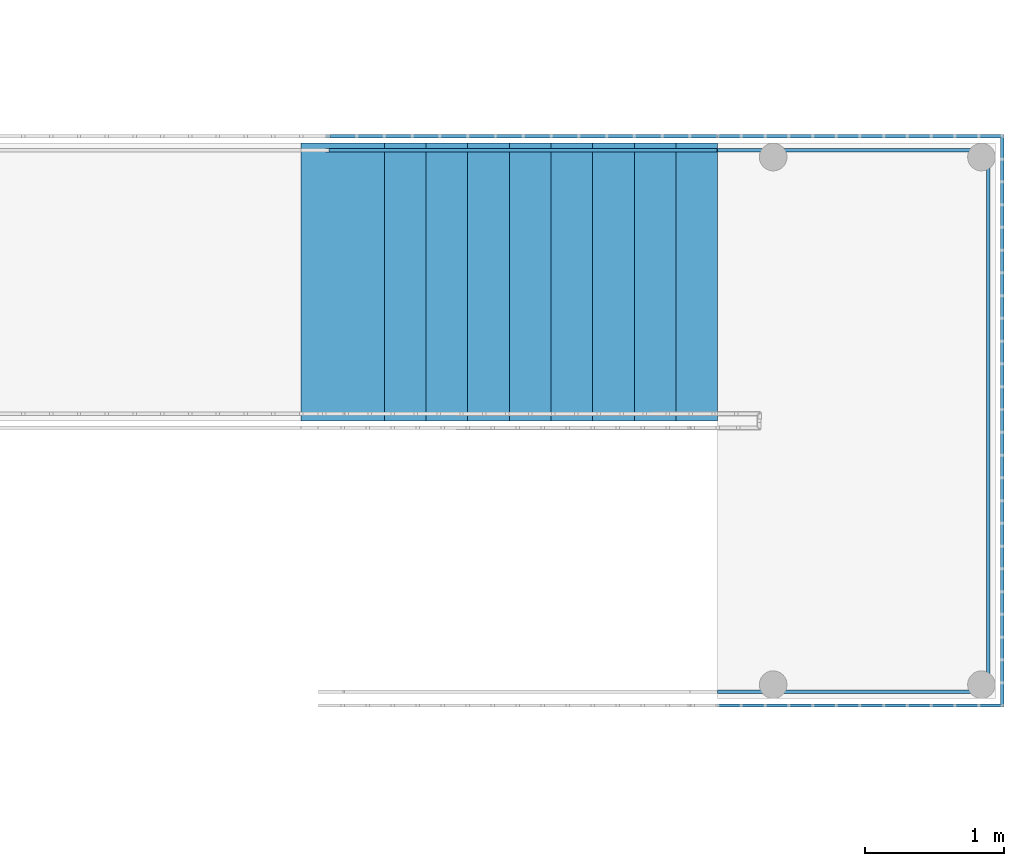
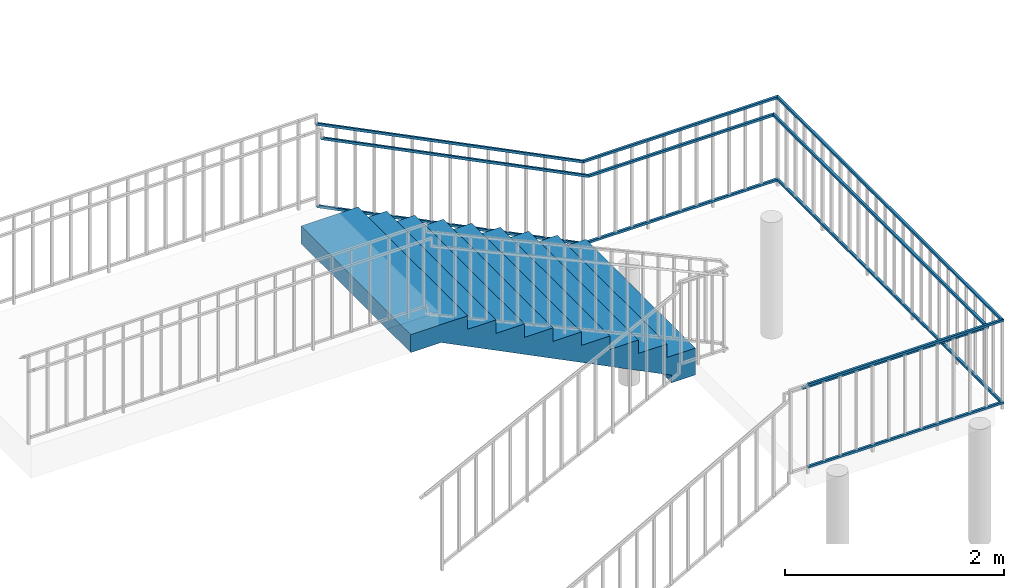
# One storey, part 11 of 19: 13 building element parts, 2 elements without a shape of their own.
"""IFC4 building model written with IfcOpenShell, lengths in millimetres."""

from ifc_helpers import new_model, entity, si_unit, converted_unit, derived_unit, direction, frame, origin_with_axes, place, context, subcontext, project, spatial, triangles, material, element, aggregate, save


model = new_model("IFC4")

# Units and contexts
model_context = context("Model", 3, precision=1e-05, world=origin_with_axes(), true_north=direction((0.0, 1.0)))
body_context = subcontext(model_context, "Body", "Model", "MODEL_VIEW")
ifc_project = project(units=[si_unit("LENGTHUNIT", "METRE", prefix="MILLI"), si_unit("AREAUNIT", "SQUARE_METRE"), si_unit("VOLUMEUNIT", "CUBIC_METRE"), converted_unit("PLANEANGLEUNIT", "DEGREE", entity("IfcLengthMeasure", 0.017453), si_unit("PLANEANGLEUNIT", "RADIAN"), dimensions=[0, 0, 0, 0, 0, 0, 0]), si_unit("SOLIDANGLEUNIT", "STERADIAN"), si_unit("MASSUNIT", "GRAM"), si_unit("TIMEUNIT", "SECOND"), si_unit("THERMODYNAMICTEMPERATUREUNIT", "DEGREE_CELSIUS"), si_unit("LUMINOUSINTENSITYUNIT", "LUMEN"), si_unit("POWERUNIT", "WATT"), derived_unit("THERMALTRANSMITTANCEUNIT", [(si_unit("POWERUNIT", "WATT"), 1), (si_unit("THERMODYNAMICTEMPERATUREUNIT", "KELVIN"), -1), (si_unit("AREAUNIT", "SQUARE_METRE"), -1)])], contexts=[model_context])

# Site, building, storey
site_placement = place(None, origin_with_axes())
site = spatial("IfcSite", under=ifc_project, at=site_placement, Name="Default Site", CompositionType="ELEMENT")
building_placement = place(site_placement, origin_with_axes())
building = spatial("IfcBuilding", under=site, at=building_placement, Name="Default Building", CompositionType="ELEMENT")
storey_placement = place(building_placement, frame((0.0, 0.0, 3000.0), z_axis=(0.0, 0.0, 1.0), x_axis=(1.0, 0.0, 0.0)))
storey = spatial("IfcBuildingStorey", under=building, at=storey_placement, Name="EG - Story", CompositionType="ELEMENT", Elevation=3000.0)

# Railing, building element parts
railing_placement = place(storey_placement, origin_with_axes())
railing = element("IfcRailing", 1, at=railing_placement, inside=storey, Name="Geländer - 001", PredefinedType="NOTDEFINED")
ifc_material_1 = material(Name="Bekleidung")
building_element_part_1_placement = place(railing_placement, frame((84051.391327, -31589.262838, -3000.0), z_axis=(0.0, 0.0, 1.0), x_axis=(1.0, 0.0, 0.0)))
building_element_part_1 = element("IfcBuildingElementPart", 2, at=building_element_part_1_placement, material=ifc_material_1, Name="Bekleidung", PredefinedType="NOTDEFINED", context=body_context, shape_type="Tessellation", body=[
    triangles([(2700.0, 37.5, 2400.0), (2700.0, 37.5, 2375.0), (4662.5, 37.5, 2375.0), (4662.5, 37.5, 2400.0), (2700.0, 62.5, 2400.0), (2700.0, 62.5, 2375.0), (4637.5, 62.5, 2375.0), (4637.5, 62.5, 2400.0)], [[1, 2, 3], [1, 3, 4], [1, 5, 6], [1, 6, 2], [2, 6, 7], [2, 7, 3], [4, 3, 7], [4, 7, 8], [5, 1, 4], [5, 4, 8], [6, 5, 8], [6, 8, 7]], closed=False),
])
building_element_part_2_placement = place(railing_placement, frame((84051.391327, -31589.262838, -3000.0), z_axis=(0.0, 0.0, 1.0), x_axis=(1.0, 0.0, 0.0)))
building_element_part_2 = element("IfcBuildingElementPart", 3, at=building_element_part_2_placement, material=ifc_material_1, Name="Bekleidung", PredefinedType="NOTDEFINED", context=body_context, shape_type="Tessellation", body=[
    triangles([(2700.0, -62.499, 2500.0), (2700.0, -62.499, 2475.0), (4762.5, -62.499, 2475.0), (4762.5, -62.499, 2500.0), (2700.0, -37.499, 2500.0), (2700.0, -37.499, 2475.0), (4737.5, -37.499, 2475.0), (4737.5, -37.499, 2500.0)], [[1, 2, 3], [1, 3, 4], [1, 5, 6], [1, 6, 2], [2, 6, 7], [2, 7, 3], [4, 3, 7], [4, 7, 8], [5, 1, 4], [5, 4, 8], [6, 5, 8], [6, 8, 7]], closed=False),
])
building_element_part_3_placement = place(railing_placement, frame((84051.391327, -31589.262838, -3000.0), z_axis=(0.0, 0.0, 1.0), x_axis=(1.0, 0.0, 0.0)))
building_element_part_3 = element("IfcBuildingElementPart", 4, at=building_element_part_3_placement, material=ifc_material_1, Name="Bekleidung", PredefinedType="NOTDEFINED", context=body_context, shape_type="Tessellation", body=[
    triangles([(2700.0, -62.499, 1582.5), (2700.0, -62.499, 1557.5), (4762.5, -62.499, 1557.5), (4762.5, -62.499, 1582.5), (2700.0, -37.499, 1582.5), (2700.0, -37.499, 1557.5), (4737.5, -37.499, 1557.5), (4737.5, -37.499, 1582.5)], [[1, 2, 3], [1, 3, 4], [1, 5, 6], [1, 6, 2], [2, 6, 7], [2, 7, 3], [4, 3, 7], [4, 7, 8], [5, 1, 4], [5, 4, 8], [6, 5, 8], [6, 8, 7]], closed=False),
])
building_element_part_4_placement = place(railing_placement, frame((84051.391327, -31589.262838, -3000.0), z_axis=(0.0, 0.0, 1.0), x_axis=(1.0, 0.0, 0.0)))
building_element_part_4 = element("IfcBuildingElementPart", 5, at=building_element_part_4_placement, material=ifc_material_1, Name="Bekleidung", PredefinedType="NOTDEFINED", context=body_context, shape_type="Tessellation", body=[
    triangles([(4662.5, 37.5, 2400.0), (4662.5, 37.5, 2375.0), (4662.5, 3962.5, 2375.0), (4662.5, 3962.5, 2400.0), (4637.5, 62.5, 2400.0), (4637.5, 62.5, 2375.0), (4637.5, 3937.5, 2375.0), (4637.5, 3937.5, 2400.0)], [[1, 2, 3], [1, 3, 4], [1, 5, 6], [1, 6, 2], [2, 6, 7], [2, 7, 3], [4, 3, 7], [4, 7, 8], [5, 1, 4], [5, 4, 8], [6, 5, 8], [6, 8, 7]], closed=False),
])
building_element_part_5_placement = place(railing_placement, frame((84051.391327, -31589.262838, -3000.0), z_axis=(0.0, 0.0, 1.0), x_axis=(1.0, 0.0, 0.0)))
building_element_part_5 = element("IfcBuildingElementPart", 6, at=building_element_part_5_placement, material=ifc_material_1, Name="Bekleidung", PredefinedType="NOTDEFINED", context=body_context, shape_type="Tessellation", body=[
    triangles([(4762.5, -62.499, 2500.0), (4762.5, -62.499, 2475.0), (4762.5, 4062.5, 2475.0), (4762.5, 4062.5, 2500.0), (4737.5, -37.499, 2500.0), (4737.5, -37.499, 2475.0), (4737.5, 4037.5, 2475.0), (4737.5, 4037.5, 2500.0)], [[1, 2, 3], [1, 3, 4], [1, 5, 6], [1, 6, 2], [2, 6, 7], [2, 7, 3], [4, 3, 7], [4, 7, 8], [5, 1, 4], [5, 4, 8], [6, 5, 8], [6, 8, 7]], closed=False),
])
building_element_part_6_placement = place(railing_placement, frame((84051.391327, -31589.262838, -3000.0), z_axis=(0.0, 0.0, 1.0), x_axis=(1.0, 0.0, 0.0)))
building_element_part_6 = element("IfcBuildingElementPart", 7, at=building_element_part_6_placement, material=ifc_material_1, Name="Bekleidung", PredefinedType="NOTDEFINED", context=body_context, shape_type="Tessellation", body=[
    triangles([(4762.5, -62.499, 1582.5), (4762.5, -62.499, 1557.5), (4762.5, 4062.5, 1557.5), (4762.5, 4062.5, 1582.5), (4737.5, -37.499, 1582.5), (4737.5, -37.499, 1557.5), (4737.5, 4037.5, 1557.5), (4737.5, 4037.5, 1582.5)], [[1, 2, 3], [1, 3, 4], [1, 5, 6], [1, 6, 2], [2, 6, 7], [2, 7, 3], [4, 3, 7], [4, 7, 8], [5, 1, 4], [5, 4, 8], [6, 5, 8], [6, 8, 7]], closed=False),
])
building_element_part_7_placement = place(railing_placement, frame((84051.391327, -31589.262838, -3000.0), z_axis=(0.0, 0.0, 1.0), x_axis=(1.0, 0.0, 0.0)))
building_element_part_7 = element("IfcBuildingElementPart", 8, at=building_element_part_7_placement, material=ifc_material_1, Name="Bekleidung", PredefinedType="NOTDEFINED", context=body_context, shape_type="Tessellation", body=[
    triangles([(4662.5, 3962.5, 2400.0), (4662.5, 3962.5, 2375.0), (2694.098, 3962.5, 2375.0), (2700.0, 3962.5, 2400.0), (4637.5, 3937.5, 2400.0), (4637.5, 3937.5, 2375.0), (2694.098, 3937.5, 2375.0), (2700.0, 3937.5, 2400.0)], [[1, 2, 3], [1, 3, 4], [1, 5, 6], [1, 6, 2], [2, 6, 7], [2, 7, 3], [4, 3, 7], [4, 7, 8], [5, 1, 4], [5, 4, 8], [6, 5, 8], [6, 8, 7]], closed=False),
])
building_element_part_8_placement = place(railing_placement, frame((84051.391327, -31589.262838, -3000.0), z_axis=(0.0, 0.0, 1.0), x_axis=(1.0, 0.0, 0.0)))
building_element_part_8 = element("IfcBuildingElementPart", 9, at=building_element_part_8_placement, material=ifc_material_1, Name="Bekleidung", PredefinedType="NOTDEFINED", context=body_context, shape_type="Tessellation", body=[
    triangles([(4762.5, 4062.5, 2500.0), (4762.5, 4062.5, 2475.0), (2694.098, 4062.5, 2475.0), (2700.0, 4062.5, 2500.0), (4737.5, 4037.5, 2500.0), (4737.5, 4037.5, 2475.0), (2694.098, 4037.5, 2475.0), (2700.0, 4037.5, 2500.0)], [[1, 2, 3], [1, 3, 4], [1, 5, 6], [1, 6, 2], [2, 6, 7], [2, 7, 3], [4, 3, 7], [4, 7, 8], [5, 1, 4], [5, 4, 8], [6, 5, 8], [6, 8, 7]], closed=False),
])
building_element_part_9_placement = place(railing_placement, frame((84051.391327, -31589.262838, -3000.0), z_axis=(0.0, 0.0, 1.0), x_axis=(1.0, 0.0, 0.0)))
building_element_part_9 = element("IfcBuildingElementPart", 10, at=building_element_part_9_placement, material=ifc_material_1, Name="Bekleidung", PredefinedType="NOTDEFINED", context=body_context, shape_type="Tessellation", body=[
    triangles([(4762.5, 4062.5, 1582.5), (4762.5, 4062.5, 1557.5), (2697.049, 4062.5, 1557.5), (2702.951, 4062.5, 1582.5), (4737.5, 4037.5, 1582.5), (4737.5, 4037.5, 1557.5), (2697.049, 4037.5, 1557.5), (2702.951, 4037.5, 1582.5)], [[1, 2, 3], [1, 3, 4], [1, 5, 6], [1, 6, 2], [2, 6, 7], [2, 7, 3], [4, 3, 7], [4, 7, 8], [5, 1, 4], [5, 4, 8], [6, 5, 8], [6, 8, 7]], closed=False),
])
building_element_part_10_placement = place(railing_placement, frame((84051.391327, -31589.262838, -3000.0), z_axis=(0.0, 0.0, 1.0), x_axis=(1.0, 0.0, 0.0)))
building_element_part_10 = element("IfcBuildingElementPart", 11, at=building_element_part_10_placement, material=ifc_material_1, Name="Bekleidung", PredefinedType="NOTDEFINED", context=body_context, shape_type="Tessellation", body=[
    triangles([(2700.0, 3962.5, 2400.0), (2694.098, 3962.5, 2375.0), (-124.999, 3962.5, 3784.549), (-99.999, 3962.5, 3800.0), (2700.0, 3937.5, 2400.0), (2694.098, 3937.5, 2375.0), (-124.999, 3937.5, 3784.549), (-99.999, 3937.5, 3800.0)], [[1, 2, 3], [1, 3, 4], [1, 5, 6], [1, 6, 2], [2, 6, 7], [2, 7, 3], [4, 3, 7], [4, 7, 8], [5, 1, 4], [5, 4, 8], [6, 5, 8], [6, 8, 7]], closed=False),
])
building_element_part_11_placement = place(railing_placement, frame((84051.391327, -31589.262838, -3000.0), z_axis=(0.0, 0.0, 1.0), x_axis=(1.0, 0.0, 0.0)))
building_element_part_11 = element("IfcBuildingElementPart", 12, at=building_element_part_11_placement, material=ifc_material_1, Name="Bekleidung", PredefinedType="NOTDEFINED", context=body_context, shape_type="Tessellation", body=[
    triangles([(2700.0, 4062.5, 2500.0), (2694.098, 4062.5, 2475.0), (-124.999, 4062.5, 3884.549), (-99.999, 4062.5, 3900.0), (2700.0, 4037.5, 2500.0), (2694.098, 4037.5, 2475.0), (-124.999, 4037.5, 3884.549), (-99.999, 4037.5, 3900.0)], [[1, 2, 3], [1, 3, 4], [1, 5, 6], [1, 6, 2], [2, 6, 7], [2, 7, 3], [4, 3, 7], [4, 7, 8], [5, 1, 4], [5, 4, 8], [6, 5, 8], [6, 8, 7]], closed=False),
])
building_element_part_12_placement = place(railing_placement, frame((84051.391327, -31589.262838, -3000.0), z_axis=(0.0, 0.0, 1.0), x_axis=(1.0, 0.0, 0.0)))
building_element_part_12 = element("IfcBuildingElementPart", 13, at=building_element_part_12_placement, material=ifc_material_1, Name="Bekleidung", PredefinedType="NOTDEFINED", context=body_context, shape_type="Tessellation", body=[
    triangles([(2702.951, 4062.5, 1582.5), (2697.049, 4062.5, 1557.5), (-112.499, 4062.5, 2962.275), (-87.499, 4062.5, 2977.725), (2702.951, 4037.5, 1582.5), (2697.049, 4037.5, 1557.5), (-112.499, 4037.5, 2962.275), (-87.499, 4037.5, 2977.725)], [[1, 2, 3], [1, 3, 4], [1, 5, 6], [1, 6, 2], [2, 6, 7], [2, 7, 3], [4, 3, 7], [4, 7, 8], [5, 1, 4], [5, 4, 8], [6, 5, 8], [6, 8, 7]], closed=False),
])
aggregate(railing, [building_element_part_1, building_element_part_2, building_element_part_3, building_element_part_4, building_element_part_5, building_element_part_6, building_element_part_7, building_element_part_8, building_element_part_9, building_element_part_10, building_element_part_11, building_element_part_12])

# Stair, building element part
stair_placement = place(storey_placement, origin_with_axes())
stair = element("IfcStair", 14, at=stair_placement, inside=storey, Name="Treppe - 003", PredefinedType="NOTDEFINED")
ifc_material_2 = material(Name="Bauteil")
building_element_part_13_placement = place(stair_placement, frame((86751.391327, -29589.262838, -1500.0), z_axis=(0.0, 0.0, 1.0), x_axis=(-1.0, 0.0, 0.0)))
building_element_part_13 = element("IfcBuildingElementPart", 15, at=building_element_part_13_placement, material=ifc_material_2, Name="Bauteil", PredefinedType="NOTDEFINED", context=body_context, shape_type="Tessellation", body=[
    triangles([(2625.0, 0.0, 1122.434), (2680.132, 0.0, 1150.0), (2680.132, -1999.999, 1150.0), (2625.0, -1999.999, 1122.434), (0.0, 0.0, 150.0), (0.0, 0.0, -149.999), (250.0, 0.0, -65.065), (300.0, 0.0, -40.065), (375.0, 0.0, -2.565), (400.0, 0.0, 9.934), (450.0, 0.0, 34.934), (500.0, 0.0, 59.934), (525.0, 0.0, 72.434), (600.0, 0.0, 109.934), (675.0, 0.0, 147.434), (300.0, 0.0, 150.0), (750.0, 0.0, 184.934), (825.0, 0.0, 222.434), (300.0, 0.0, 300.0), (900.0, 0.0, 259.934), (600.0, 0.0, 300.0), (1000.0, 0.0, 309.934), (600.0, 0.0, 450.0), (1100.0, 0.0, 359.934), (1200.0, 0.0, 409.934), (900.0, 0.0, 450.0), (1300.0, 0.0, 459.934), (900.0, 0.0, 600.0), (1400.0, 0.0, 509.934), (1500.0, 0.0, 559.934), (1200.0, 0.0, 600.0), (1600.0, 0.0, 609.934), (1200.0, 0.0, 750.0), (1700.0, 0.0, 659.934), (1800.0, 0.0, 709.934), (1875.0, 0.0, 747.434), (1500.0, 0.0, 750.0), (1900.0, 0.0, 759.934), (1500.0, 0.0, 900.0), (1950.0, 0.0, 784.934), (2000.0, 0.0, 809.934), (2025.0, 0.0, 822.434), (2100.0, 0.0, 859.934), (1800.0, 0.0, 900.0), (2200.0, 0.0, 909.934), (1800.0, 0.0, 1050.0), (2300.0, 0.0, 959.934), (2400.0, 0.0, 1009.934), (2475.0, 0.0, 1047.434), (2100.0, 0.0, 1050.0), (2500.0, 0.0, 1059.934), (2100.0, 0.0, 1200.0), (2550.0, 0.0, 1084.934), (2600.0, 0.0, 1109.934), (3000.0, 0.0, 1350.0), (2400.0, 0.0, 1350.0), (3000.0, 0.0, 1309.934), (2400.0, 0.0, 1200.0), (3000.0, 0.0, 1150.0), (250.0, 0.0, -149.999), (3000.0, -1999.999, 1150.0), (0.0, -1999.999, 150.0), (0.0, -1999.999, -149.999), (250.0, -1999.999, -65.065), (300.0, -1999.999, -40.065), (375.0, -1999.999, -2.565), (400.0, -1999.999, 9.934), (450.0, -1999.999, 34.934), (500.0, -1999.999, 59.934), (525.0, -1999.999, 72.434), (600.0, -1999.999, 109.934), (675.0, -1999.999, 147.434), (300.0, -1999.999, 150.0), (750.0, -1999.999, 184.934), (825.0, -1999.999, 222.434), (300.0, -1999.999, 300.0), (900.0, -1999.999, 259.934), (600.0, -1999.999, 300.0), (1000.0, -1999.999, 309.934), (600.0, -1999.999, 450.0), (1100.0, -1999.999, 359.934), (1200.0, -1999.999, 409.934), (900.0, -1999.999, 450.0), (1300.0, -1999.999, 459.934), (900.0, -1999.999, 600.0), (1400.0, -1999.999, 509.934), (1500.0, -1999.999, 559.934), (1200.0, -1999.999, 600.0), (1600.0, -1999.999, 609.934), (1200.0, -1999.999, 750.0), (1700.0, -1999.999, 659.934), (1800.0, -1999.999, 709.934), (1875.0, -1999.999, 747.434), (1500.0, -1999.999, 750.0), (1900.0, -1999.999, 759.934), (1500.0, -1999.999, 900.0), (1950.0, -1999.999, 784.934), (2000.0, -1999.999, 809.934), (2025.0, -1999.999, 822.434), (2100.0, -1999.999, 859.934), (1800.0, -1999.999, 900.0), (2200.0, -1999.999, 909.934), (1800.0, -1999.999, 1050.0), (2300.0, -1999.999, 959.934), (2400.0, -1999.999, 1009.934), (2475.0, -1999.999, 1047.434), (2100.0, -1999.999, 1050.0), (2500.0, -1999.999, 1059.934), (2100.0, -1999.999, 1200.0), (2550.0, -1999.999, 1084.934), (2600.0, -1999.999, 1109.934), (3000.0, -1999.999, 1350.0), (2400.0, -1999.999, 1350.0), (3000.0, -1999.999, 1309.934), (2400.0, -1999.999, 1200.0), (250.0, -1999.999, -149.999)], [[1, 2, 3], [1, 3, 4], [5, 6, 7], [5, 7, 8], [5, 8, 9], [5, 9, 10], [5, 10, 11], [5, 11, 12], [5, 12, 13], [5, 13, 14], [5, 14, 15], [5, 15, 16], [17, 18, 19], [19, 18, 20], [19, 20, 21], [21, 20, 22], [21, 22, 23], [23, 22, 24], [23, 24, 25], [16, 15, 17], [16, 17, 19], [23, 25, 26], [26, 25, 27], [26, 27, 28], [28, 27, 29], [28, 29, 30], [28, 30, 31], [31, 30, 32], [31, 32, 33], [33, 32, 34], [33, 34, 35], [33, 36, 37], [37, 36, 38], [37, 38, 39], [39, 38, 40], [39, 40, 41], [41, 42, 39], [39, 42, 43], [39, 43, 44], [44, 43, 45], [44, 45, 46], [46, 45, 47], [46, 47, 48], [46, 49, 50], [50, 49, 51], [50, 51, 52], [52, 51, 53], [52, 53, 54], [55, 56, 57], [57, 56, 58], [57, 58, 2], [2, 58, 52], [2, 52, 1], [1, 52, 54], [57, 2, 59], [46, 48, 49], [33, 35, 36], [7, 6, 60], [3, 2, 59], [3, 59, 61], [62, 63, 64], [62, 64, 65], [62, 65, 66], [62, 66, 67], [62, 67, 68], [62, 68, 69], [62, 69, 70], [62, 70, 71], [62, 71, 72], [62, 72, 73], [74, 75, 76], [76, 75, 77], [76, 77, 78], [78, 77, 79], [78, 79, 80], [80, 79, 81], [80, 81, 82], [73, 72, 74], [73, 74, 76], [80, 82, 83], [83, 82, 84], [83, 84, 85], [85, 84, 86], [85, 86, 87], [85, 87, 88], [88, 87, 89], [88, 89, 90], [90, 89, 91], [90, 91, 92], [90, 93, 94], [94, 93, 95], [94, 95, 96], [96, 95, 97], [96, 97, 98], [98, 99, 96], [96, 99, 100], [96, 100, 101], [101, 100, 102], [101, 102, 103], [103, 102, 104], [103, 104, 105], [103, 106, 107], [107, 106, 108], [107, 108, 109], [109, 108, 110], [109, 110, 111], [112, 113, 114], [114, 113, 115], [114, 115, 3], [3, 115, 109], [3, 109, 4], [4, 109, 111], [114, 3, 61], [103, 105, 106], [90, 92, 93], [64, 63, 116], [54, 1, 4], [54, 4, 111], [53, 54, 111], [53, 111, 110], [51, 53, 110], [51, 110, 108], [49, 51, 108], [49, 108, 106], [48, 49, 106], [48, 106, 105], [47, 48, 105], [47, 105, 104], [45, 47, 104], [45, 104, 102], [43, 45, 102], [43, 102, 100], [42, 43, 100], [42, 100, 99], [41, 42, 99], [41, 99, 98], [40, 41, 98], [40, 98, 97], [38, 40, 97], [38, 97, 95], [36, 38, 95], [36, 95, 93], [35, 36, 93], [35, 93, 92], [34, 35, 92], [34, 92, 91], [32, 34, 91], [32, 91, 89], [30, 32, 89], [30, 89, 87], [29, 30, 87], [29, 87, 86], [27, 29, 86], [27, 86, 84], [25, 27, 84], [25, 84, 82], [24, 25, 82], [24, 82, 81], [22, 24, 81], [22, 81, 79], [20, 22, 79], [20, 79, 77], [18, 20, 77], [18, 77, 75], [17, 18, 75], [17, 75, 74], [15, 17, 74], [15, 74, 72], [14, 15, 72], [14, 72, 71], [13, 14, 71], [13, 71, 70], [12, 13, 70], [12, 70, 69], [11, 12, 69], [11, 69, 68], [10, 11, 68], [10, 68, 67], [9, 10, 67], [9, 67, 66], [8, 9, 66], [8, 66, 65], [7, 8, 65], [7, 65, 64], [64, 116, 60], [64, 60, 7], [63, 6, 60], [63, 60, 116], [6, 63, 62], [6, 62, 5], [62, 73, 16], [62, 16, 5], [19, 16, 73], [19, 73, 76], [76, 78, 21], [76, 21, 19], [23, 21, 78], [23, 78, 80], [80, 83, 26], [80, 26, 23], [28, 26, 83], [28, 83, 85], [85, 88, 31], [85, 31, 28], [33, 31, 88], [33, 88, 90], [90, 94, 37], [90, 37, 33], [39, 37, 94], [39, 94, 96], [96, 101, 44], [96, 44, 39], [46, 44, 101], [46, 101, 103], [103, 107, 50], [103, 50, 46], [52, 50, 107], [52, 107, 109], [109, 115, 58], [109, 58, 52], [56, 58, 115], [56, 115, 113], [113, 112, 55], [113, 55, 56], [55, 112, 114], [55, 114, 57], [61, 59, 57], [61, 57, 114]], closed=False),
])
aggregate(stair, [building_element_part_13])

save(model, "model.ifc")
